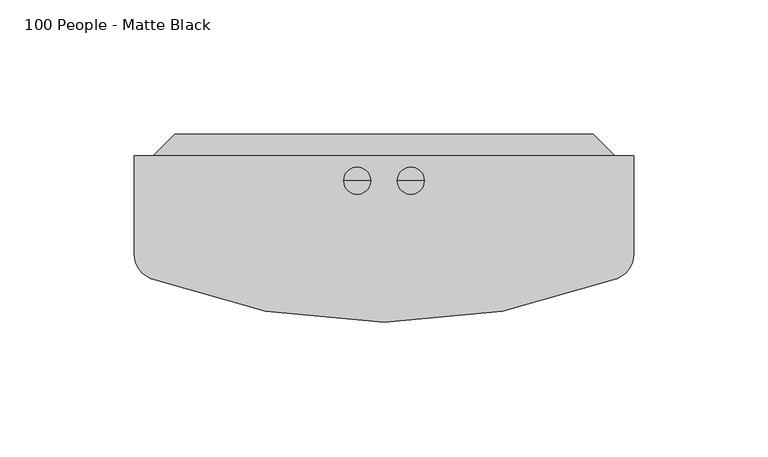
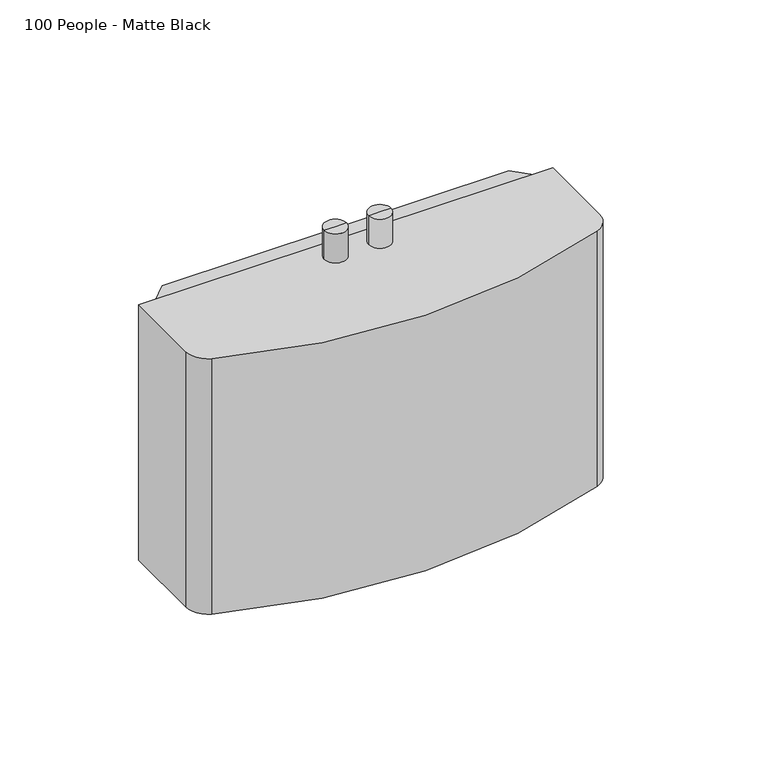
"""IFC4 building model written with IfcOpenShell, lengths in millimetres: flow terminal geometry, PlumFixt_Zip Commercial_Classic_BC : 100 People - Matte Black."""

from ifc_helpers import new_model, si_unit, point, frame, frame_2d, origin, place, context, project, spatial, polyline, circle_curve, trimmed, segment, composite_curve, outline, extrude, source, transform, mapped, element, save
from ifc_brep_helpers import plane_surface, cylinder_surface, advanced_brep


def flow_terminal_100_people_matte_black_e59bcbac(model_context):
    return source(origin(), model_context, "Body", "SolidModel", [
        advanced_brep(
        [(-9.0, 268.188161, 673.0), (-14.0, 268.188161, 673.0), (-4.0, 268.188161, 673.0), (-4.0, 268.188161, 659.25), (-14.0, 268.188161, 659.25), (-9.0, 268.188161, 659.25)],
        [
            (0, 1),
            (1, 2, circle_curve(frame((-9.0, 268.188161, 673.0), z_axis=(0.0, 0.0, 1.0), x_axis=(-1.0, 0.0, 0.0)), 5.0)),
            (2, 0),
            (2, 1, circle_curve(frame((-9.0, 268.188161, 673.0), z_axis=(0.0, 0.0, 1.0), x_axis=(-1.0, 0.0, 0.0)), 5.0)),
            (3, 4, circle_curve(frame((-9.0, 268.188161, 659.25), z_axis=(0.0, 0.0, -1.0), x_axis=(-1.0, 0.0, 0.0)), 5.0)),
            (4, 5),
            (5, 3),
            (4, 3, circle_curve(frame((-9.0, 268.188161, 659.25), z_axis=(0.0, 0.0, -1.0), x_axis=(-1.0, 0.0, 0.0)), 5.0)),
            (1, 4),
            (3, 2),
        ],
        [
            plane_surface(frame((-9.0, 268.188161, 673.0), z_axis=(0.0, 0.0, 1.0), x_axis=(-1.0, 0.0, 0.0))),
            plane_surface(frame((-9.0, 268.188161, 659.25), z_axis=(0.0, 0.0, -1.0), x_axis=(-1.0, 0.0, 0.0))),
            cylinder_surface(frame((-9.0, 268.188161, 661.734876), z_axis=(0.0, 0.0, 1.0), x_axis=(-1.0, 0.0, 0.0)), 5.0),
        ],
        [
            (0, [[1, 2, 3]]),
            (0, [[-3, 4, -1]]),
            (1, [[5, 6, 7]]),
            (1, [[8, -7, -6]]),
            (2, [[-2, 9, -5, 10]]),
            (2, [[-4, -10, -8, -9]]),
        ],
    ),
        advanced_brep(
        [(6.0, 268.188161, 673.0), (16.0, 268.188161, 673.0), (11.0, 268.188161, 673.0), (11.0, 268.188161, 659.25), (16.0, 268.188161, 659.25), (6.0, 268.188161, 659.25)],
        [
            (0, 1, circle_curve(frame((11.0, 268.188161, 673.0), z_axis=(0.0, 0.0, 1.0), x_axis=(1.0, 0.0, 0.0)), 5.0)),
            (1, 2),
            (2, 0),
            (1, 0, circle_curve(frame((11.0, 268.188161, 673.0), z_axis=(0.0, 0.0, 1.0), x_axis=(1.0, 0.0, 0.0)), 5.0)),
            (3, 4),
            (4, 5, circle_curve(frame((11.0, 268.188161, 659.25), z_axis=(0.0, 0.0, -1.0), x_axis=(1.0, 0.0, 0.0)), 5.0)),
            (5, 3),
            (5, 4, circle_curve(frame((11.0, 268.188161, 659.25), z_axis=(0.0, 0.0, -1.0), x_axis=(1.0, 0.0, 0.0)), 5.0)),
            (4, 1),
            (0, 5),
        ],
        [
            plane_surface(frame((11.0, 268.188161, 673.0), z_axis=(0.0, 0.0, 1.0), x_axis=(1.0, 0.0, 0.0))),
            plane_surface(frame((11.0, 268.188161, 659.25), z_axis=(0.0, 0.0, -1.0), x_axis=(1.0, 0.0, 0.0))),
            cylinder_surface(frame((11.0, 268.188161, 661.734876), z_axis=(0.0, 0.0, -1.0), x_axis=(1.0, 0.0, 0.0)), 5.0),
        ],
        [
            (0, [[1, 2, 3]]),
            (0, [[4, -3, -2]]),
            (1, [[5, 6, 7]]),
            (1, [[-7, 8, -5]]),
            (2, [[-6, 9, -1, 10]]),
            (2, [[-8, -10, -4, -9]]),
        ],
    ),
        extrude(outline(polyline([(78.9446111, 285.5), (86.9446111, 277.5), (-84.9446111, 277.5), (-76.9446111, 285.5), (78.9446111, 285.5)])), frame((0.0, 0.0, 539.0), z_axis=(0.0, 0.0, 1.0), x_axis=(1.0, 0.0, 0.0)), (0.0, 0.0, 1.0), 119.25),
        extrude(outline(composite_curve([segment(polyline([(-92.0, 277.5), (94.0, 277.5), (94.0, 241.0019385)]), True, "CONTINUOUS"), segment(trimmed(circle_curve(frame_2d((84.0, 241.0019385)), 10.0), [point((94.0, 241.0019385))], [point((87.6094962, 231.6760854))], False, "CARTESIAN"), True, "CONTINUOUS"), segment(trimmed(circle_curve(frame_2d((1.0, 455.4489865)), 239.9489865), [point((87.6094962, 231.6760854))], [point((-85.6094962, 231.6760854))], False, "CARTESIAN"), True, "CONTINUOUS"), segment(trimmed(circle_curve(frame_2d((-82.0, 241.0019385)), 10.0), [point((-85.6094962, 231.6760854))], [point((-92.0, 241.0019385))], False, "CARTESIAN"), True, "CONTINUOUS"), segment(polyline([(-92.0, 241.0019385), (-92.0, 277.5)]), True, "CONTINUOUS")], self_intersect=False)), frame((0.0, 0.0, 538.0), z_axis=(0.0, 0.0, 1.0), x_axis=(1.0, 0.0, 0.0)), (0.0, 0.0, 1.0), 121.25),
    ])


if __name__ == "__main__":
    model = new_model("IFC4")
    model_context = context("Model", 3, world=origin())
    ifc_project = project(units=[si_unit("LENGTHUNIT", "METRE", prefix="MILLI")], contexts=[model_context])
    site = spatial("IfcSite", under=ifc_project)
    building = spatial("IfcBuilding", under=site)
    placement = place(None, origin())
    flow_terminal_100_people_matte_black_shape = flow_terminal_100_people_matte_black_e59bcbac(model_context)
    element("IfcFlowTerminal", 1, ObjectType="PlumFixt_Zip Commercial_Classic_BC : 100 People - Matte Black", at=placement, inside=building, context=model_context, shape_type="MappedRepresentation", body=[
        mapped(flow_terminal_100_people_matte_black_shape, transform((0.0, 0.0, 0.0), x_axis=(1.0, 0.0, 0.0), y_axis=(0.0, 1.0, 0.0), z_axis=(0.0, 0.0, 1.0))),
    ])
    save(model, "model.ifc")
